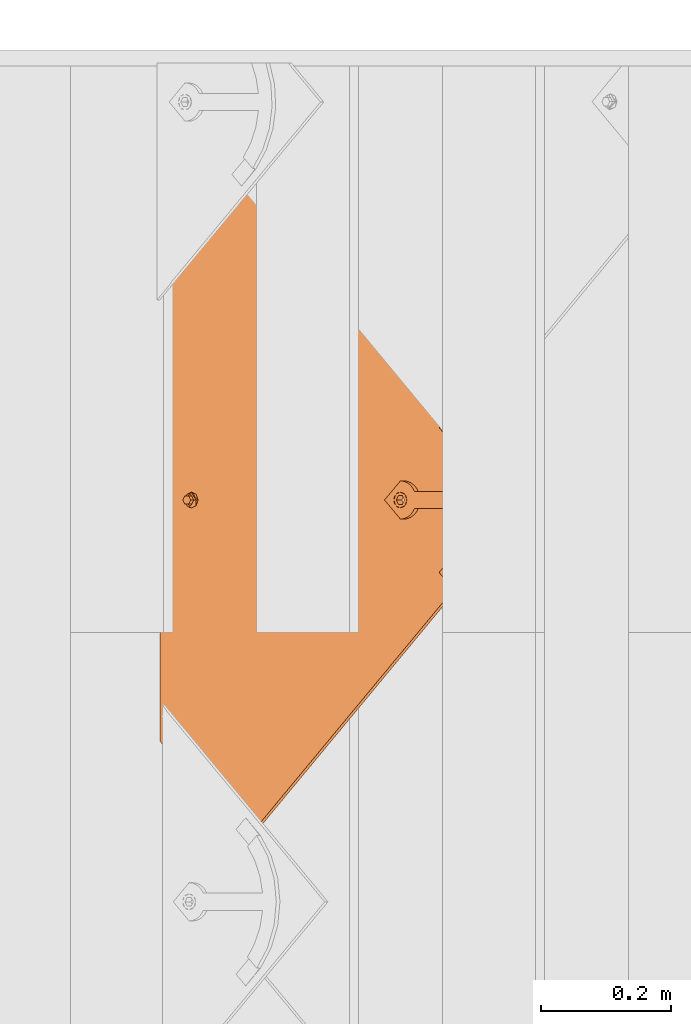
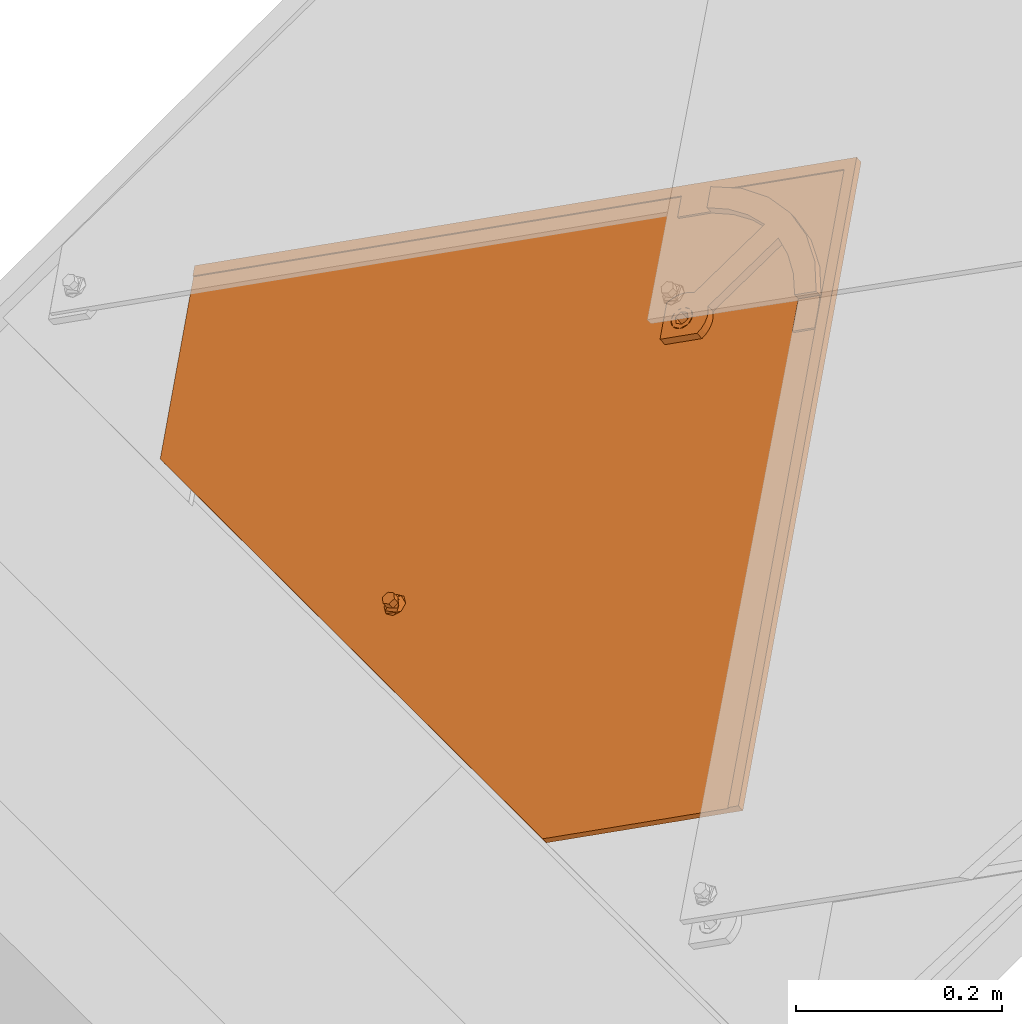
# One storey, part 89 of 151: 1 proxy.
"""IFC2X3 building model written with IfcOpenShell, lengths in millimetres."""

from ifc_helpers import new_model, entity, si_unit, converted_unit, derived_unit, direction, frame, origin, place, context, subcontext, project, spatial, faceted_brep, source, transform, mapped, material, material_list, type_object, type_shapes, element, save


model = new_model("IFC2X3")

# Units and contexts
model_context = context("Model", 3, precision=0.01, world=origin(), true_north=direction((6.12303176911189e-17, 1.0)))
body_context = subcontext(model_context, "Body", "Model", "MODEL_VIEW")
ifc_project = project(units=[si_unit("LENGTHUNIT", "METRE", prefix="MILLI"), si_unit("AREAUNIT", "SQUARE_METRE"), si_unit("VOLUMEUNIT", "CUBIC_METRE"), converted_unit("PLANEANGLEUNIT", "DEGREE", entity("IfcRatioMeasure", 0.0174532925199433), si_unit("PLANEANGLEUNIT", "RADIAN"), dimensions=[0, 0, 0, 0, 0, 0, 0]), si_unit("MASSUNIT", "GRAM", prefix="KILO"), derived_unit("MASSDENSITYUNIT", [(si_unit("MASSUNIT", "GRAM", prefix="KILO"), 1), (si_unit("LENGTHUNIT", "METRE"), -3)]), si_unit("TIMEUNIT", "SECOND"), si_unit("FREQUENCYUNIT", "HERTZ"), si_unit("THERMODYNAMICTEMPERATUREUNIT", "DEGREE_CELSIUS"), derived_unit("THERMALTRANSMITTANCEUNIT", [(si_unit("MASSUNIT", "GRAM", prefix="KILO"), 1), (si_unit("THERMODYNAMICTEMPERATUREUNIT", "KELVIN"), -1), (si_unit("TIMEUNIT", "SECOND"), -3)]), derived_unit("VOLUMETRICFLOWRATEUNIT", [(si_unit("LENGTHUNIT", "METRE"), 3), (si_unit("TIMEUNIT", "SECOND"), -1)]), si_unit("ELECTRICCURRENTUNIT", "AMPERE"), si_unit("ELECTRICVOLTAGEUNIT", "VOLT"), si_unit("POWERUNIT", "WATT"), si_unit("FORCEUNIT", "NEWTON", prefix="KILO"), si_unit("ILLUMINANCEUNIT", "LUX"), si_unit("LUMINOUSFLUXUNIT", "LUMEN"), si_unit("LUMINOUSINTENSITYUNIT", "CANDELA"), derived_unit("USERDEFINED", [(si_unit("MASSUNIT", "GRAM", prefix="KILO"), -1), (si_unit("LENGTHUNIT", "METRE"), -2), (si_unit("TIMEUNIT", "SECOND"), 3), (si_unit("LUMINOUSFLUXUNIT", "LUMEN"), 1)]), derived_unit("LINEARVELOCITYUNIT", [(si_unit("LENGTHUNIT", "METRE"), 1), (si_unit("TIMEUNIT", "SECOND"), -1)]), si_unit("PRESSUREUNIT", "PASCAL"), derived_unit("USERDEFINED", [(si_unit("LENGTHUNIT", "METRE"), -2), (si_unit("MASSUNIT", "GRAM", prefix="KILO"), 1), (si_unit("TIMEUNIT", "SECOND"), -2)])], contexts=[model_context])

# Site, building, storey
site_placement = place(None, origin())
site = spatial("IfcSite", under=ifc_project, at=site_placement, Name="Default", CompositionType="ELEMENT")
building_placement = place(site_placement, origin())
building = spatial("IfcBuilding", under=site, at=building_placement, CompositionType="ELEMENT")
storey_placement = place(building_placement, origin())
storey = spatial("IfcBuildingStorey", under=building, at=storey_placement, Name="Level 1", CompositionType="ELEMENT", Elevation=0.0)

# Proxy
ifc_material_1 = material(Name="Rubber - Sunstyle - Black")
ifc_material_2 = material(Name="Glass - Sunstyle - Tainted Black")
ifc_material_list_1 = material_list([ifc_material_1, ifc_material_2])
ifc_material_list_2 = material_list([ifc_material_1, ifc_material_2])
building_element_proxy_type = type_object("IfcBuildingElementProxyType", Name="Shingle Bottom - Black", PredefinedType="NOTDEFINED", material=ifc_material_list_2)
shared_shape = source(origin(), body_context, "Body", "Brep", [
    faceted_brep([(0.0, -1.79273515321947, -4.01619789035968), (-5.7742028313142, -5.12600528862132, -3.96037390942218), (-5.77420283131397, -4.75769619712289, 18.0314954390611), (0.0, -1.42442606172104, 17.9756714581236), (-5.77420283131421, -11.792545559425, -3.84872594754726), (-5.77420283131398, -11.4242364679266, 18.143143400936), (0.0, -15.1258156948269, -3.79290196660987), (0.0, -14.7575066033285, 18.1989673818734), (5.77420283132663, -11.7925455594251, -3.84872594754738), (5.77420283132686, -11.4242364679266, 18.1431434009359), (5.77420283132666, -5.12600528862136, -3.96037390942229), (5.77420283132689, -4.75769619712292, 18.031495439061), (-8.60370416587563, -16.6934641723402, 18.2313898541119), (0.0, -20.2567354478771, 18.2910657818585), (-12.1674751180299, -8.09096633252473, 18.0873194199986), (-8.60370416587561, 0.511531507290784, 17.9432489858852), (0.0, 4.07480278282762, 17.8835730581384), (8.60370416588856, 0.511531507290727, 17.9432489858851), (12.1674751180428, -8.09096633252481, 18.0873194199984), (8.60370416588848, -16.6934641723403, 18.2313898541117), (-11.4302228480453, -6.71737066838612, 20.4858706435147), (-9.77051349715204, -8.02009729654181, 22.3189355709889), (0.0, -0.706876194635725, 22.9603444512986), (0.0, 0.533621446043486, 22.3799978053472), (0.0, 2.69117229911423, 21.3706227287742), (-6.32324569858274, -4.35709193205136, 23.021476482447), (-6.32324569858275, -11.6575234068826, 23.1437405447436), (0.0, -18.7571148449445, 21.7298281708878), (0.0, -15.3077391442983, 23.2048725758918), (10.9851748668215, -11.808022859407, 20.3827540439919), (10.123850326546, -8.02413622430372, 22.0777687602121), (6.32324569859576, -4.3570919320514, 23.0214764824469), (6.32324569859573, -11.6575234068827, 23.1437405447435), (-6.32324569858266, -11.5234949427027, 31.146628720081), (0.0, -15.1737106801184, 31.2077607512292), (0.0, -7.8732792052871, 31.0854966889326), (-6.32324569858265, -4.22306346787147, 31.0243646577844), (6.32324569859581, -11.5234949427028, 31.1466287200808), (6.32324569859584, -4.22306346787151, 31.0243646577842), (0.0, -0.57284773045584, 30.963232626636), (0.0, -8.45927542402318, -3.90454992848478)], [[[0, 1, 2, 3]], [[1, 4, 5, 2]], [[4, 6, 7, 5]], [[6, 8, 9, 7]], [[8, 10, 11, 9]], [[10, 0, 3, 11]], [[12, 7, 13]], [[7, 12, 5]], [[14, 5, 12]], [[5, 14, 2]], [[15, 2, 14]], [[3, 2, 15]], [[15, 16, 3]], [[16, 17, 3]], [[11, 3, 17]], [[11, 17, 18]], [[9, 11, 18]], [[18, 19, 9]], [[7, 9, 19]], [[19, 13, 7]], [[15, 20, 16]], [[21, 22, 23, 24]], [[22, 21, 25]], [[20, 14, 12]], [[15, 14, 20]], [[25, 21, 26]], [[20, 24, 16]], [[12, 13, 27]], [[12, 27, 20]], [[21, 28, 26]], [[21, 27, 28]], [[20, 21, 24]], [[20, 27, 21]], [[19, 29, 13]], [[30, 23, 31]], [[30, 28, 27]], [[24, 23, 30]], [[29, 27, 13]], [[19, 18, 29]], [[29, 30, 27]], [[29, 17, 24]], [[24, 17, 16]], [[31, 32, 30]], [[23, 22, 31]], [[28, 30, 32]], [[29, 24, 30]], [[29, 18, 17]], [[33, 34, 35]], [[35, 36, 33]], [[34, 37, 35]], [[38, 35, 37]], [[35, 38, 39]], [[35, 39, 36]], [[40, 6, 4]], [[4, 1, 40]], [[1, 0, 40]], [[40, 8, 6]], [[0, 10, 40]], [[8, 40, 10]], [[22, 25, 36, 39]], [[25, 26, 33, 36]], [[26, 28, 34, 33]], [[28, 32, 37, 34]], [[32, 31, 38, 37]], [[31, 22, 39, 38]]]),
    faceted_brep([(0.0, 372.824876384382, 20.3195200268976), (0.0, 377.324245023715, 20.2441667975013), (-8.60370416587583, 376.388147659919, 20.2598440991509), (8.60370416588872, 376.388147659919, 20.2598440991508), (6.64022859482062, 381.157445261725, 20.1799702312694), (12.1674751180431, 384.990645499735, 20.1157736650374), (6.64022859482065, 388.823845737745, 20.0515770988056), (8.6037041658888, 393.59314333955, 19.9717032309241), (0.0, 392.657045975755, 19.9873805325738), (0.0, 397.156414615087, 19.9120273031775), (-8.60370416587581, 393.59314333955, 19.9717032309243), (-6.64022859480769, 388.823845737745, 20.0515770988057), (-12.1674751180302, 384.990645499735, 20.1157736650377), (-6.6402285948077, 381.157445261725, 20.1799702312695), (-6.6402282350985, 388.555922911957, 4.05382046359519), (0.0, 392.389122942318, 3.98962390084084), (-6.64022823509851, 380.889522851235, 4.18221358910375), (0.0, 377.056322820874, 4.24641015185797), (6.64022823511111, 380.889522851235, 4.18221358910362), (6.64022823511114, 388.555922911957, 4.05382046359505), (-8.603704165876, 376.12022504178, 4.26208746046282), (0.0, 372.556953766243, 4.32176338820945), (-12.1674751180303, 384.722722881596, 4.11801702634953), (-8.60370416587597, 393.325220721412, 3.97394659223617), (0.0, 396.888491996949, 3.91427066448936), (8.60370416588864, 393.325220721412, 3.97394659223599), (12.1674751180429, 384.722722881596, 4.11801702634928), (8.60370416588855, 376.12022504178, 4.26208746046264)], [[[0, 1, 2]], [[1, 0, 3]], [[3, 4, 1]], [[4, 3, 5]], [[6, 4, 5]], [[5, 7, 6]], [[7, 8, 6]], [[8, 7, 9]], [[8, 9, 10]], [[10, 11, 8]], [[12, 11, 10]], [[2, 13, 12]], [[12, 13, 11]], [[13, 2, 1]], [[8, 11, 14, 15]], [[11, 13, 16, 14]], [[13, 1, 17, 16]], [[1, 4, 18, 17]], [[4, 6, 19, 18]], [[6, 8, 15, 19]], [[20, 17, 21]], [[17, 20, 16]], [[22, 16, 20]], [[14, 16, 22]], [[23, 14, 22]], [[15, 14, 23]], [[23, 24, 15]], [[24, 25, 15]], [[19, 15, 25]], [[19, 25, 26]], [[26, 18, 19]], [[26, 27, 18]], [[17, 18, 27]], [[27, 21, 17]], [[24, 23, 10, 9]], [[10, 23, 22, 12]], [[20, 21, 0, 2]], [[20, 2, 12, 22]], [[21, 27, 3, 0]], [[3, 27, 26, 5]], [[25, 24, 9, 7]], [[25, 7, 5, 26]]]),
    faceted_brep([(518.247351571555, 79.9143812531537, 14.965257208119), (526.732038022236, 88.3990677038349, 14.8231598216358), (526.732038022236, 88.4241854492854, 16.3229495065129), (518.247351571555, 79.9394989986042, 16.4650468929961), (0.000322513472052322, 598.016093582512, 6.28834266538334), (-518.246706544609, 79.9143812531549, 14.9652572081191), (-526.73139299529, 88.3990677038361, 14.8231598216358), (0.000322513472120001, 614.983087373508, 6.00418773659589), (0.000322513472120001, 615.008205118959, 7.50397742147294), (-526.731392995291, 88.4241854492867, 16.3229495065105), (-518.246706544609, 79.9394989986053, 16.465046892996), (0.000322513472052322, 598.041211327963, 7.78813235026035)], [[[0, 1, 2, 3]], [[1, 0, 4, 5, 6, 7]], [[2, 1, 7, 8]], [[3, 2, 8, 9, 10, 11]], [[0, 3, 11, 4]], [[5, 10, 9, 6]], [[8, 7, 6, 9]], [[4, 11, 10, 5]]]),
    faceted_brep([(0.00032251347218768, 614.983087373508, 6.00418773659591), (-2.87802047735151, 396.187349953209, 9.66847193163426), (0.227808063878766, 396.596182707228, 9.6616250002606), (-5.77219193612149, 394.988712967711, 9.68854611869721), (3.3336366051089, 396.187349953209, 9.66847193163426), (6.22780806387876, 394.988712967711, 9.6885461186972), (8.71308943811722, 393.081956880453, 9.72047953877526), (10.620112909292, 390.59702396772, 9.76209598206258), (-8.25747331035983, 393.081956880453, 9.72047953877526), (-10.1644967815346, 390.59702396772, 9.76209598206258), (-11.3633018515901, 387.703258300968, 9.81055935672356), (-526.731392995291, 88.3990677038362, 14.8231598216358), (11.8189179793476, 387.703258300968, 9.81055935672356), (526.732038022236, 88.3990677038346, 14.8231598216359), (-11.7721919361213, 384.597865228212, 9.86256696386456), (-11.3633018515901, 381.492472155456, 9.91457457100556), (-10.1644967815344, 378.598706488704, 9.96303794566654), (-370.355016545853, -67.9334607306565, 17.4413406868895), (-8.25747331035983, 376.113773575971, 10.0046543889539), (-5.65685424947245, -2.29422365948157, 16.3420467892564), (-6.92820323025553, -3.95084560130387, 16.3697910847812), (-7.72740661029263, -5.88002271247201, 16.4021000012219), (-8.0, -7.95028476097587, 16.4367717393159), (-7.72740661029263, -10.0205468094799, 16.4714434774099), (-6.9282032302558, -11.9497239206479, 16.5037523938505), (-5.65685424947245, -13.6063458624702, 16.5314966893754), (-4.0, -14.8775165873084, 16.5527856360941), (-2.07055236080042, -15.676607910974, 16.5661684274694), (0.0, -15.9491630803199, 16.5707330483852), (370.355661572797, -67.9334607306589, 17.4413406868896), (10.620112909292, 378.598706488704, 9.96303794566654), (8.71308943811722, 376.11377357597, 10.0046543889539), (5.65685424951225, -2.29422365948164, 16.3420467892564), (6.92820323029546, -3.9508456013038, 16.3697910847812), (7.72740661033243, -5.88002271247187, 16.4021000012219), (8.0, -7.9502847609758, 16.4367717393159), (7.72740661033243, -10.0205468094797, 16.4714434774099), (6.92820323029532, -11.9497239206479, 16.5037523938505), (5.65685424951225, -13.6063458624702, 16.5314966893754), (4.0, -14.8775165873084, 16.5527856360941), (2.07055236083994, -15.676607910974, 16.5661684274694), (-5.77219193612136, 374.207017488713, 10.0365878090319), (-4.0, -1.02305293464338, 16.3207578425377), (-2.87802047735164, 373.008380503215, 10.0566619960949), (-2.07055236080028, -0.223961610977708, 16.3073750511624), (0.227808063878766, 372.599547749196, 10.0635089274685), (0.0, 0.0485935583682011, 16.3028104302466), (2.07055236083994, -0.223961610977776, 16.3073750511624), (3.3336366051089, 373.008380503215, 10.0566619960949), (4.0, -1.02305293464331, 16.3207578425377), (6.22780806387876, 374.207017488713, 10.0365878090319), (12.2278080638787, 384.597865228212, 9.86256696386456), (11.8189179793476, 381.492472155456, 9.91457457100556), (-370.355016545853, -68.059049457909, 9.94239226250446), (-6.92820323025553, -4.07643432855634, 8.87084266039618), (-7.72740661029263, -6.00561143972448, 8.90315157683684), (-8.0, -8.07587348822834, 8.93782331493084), (-7.72740661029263, -10.1461355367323, 8.97249505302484), (-6.9282032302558, -12.0753126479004, 9.00480396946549), (-5.65685424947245, -13.7319345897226, 9.03254826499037), (-5.65685424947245, -2.41981238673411, 8.8430983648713), (-8.25747331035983, 375.988184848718, 2.50570596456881), (-4.0, -15.0031053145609, 9.05383721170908), (-2.07055236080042, -15.8021966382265, 9.06722000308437), (0.0, -16.0747518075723, 9.07178462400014), (370.355661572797, -68.0590494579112, 9.9423922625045), (-10.1644967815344, 378.473117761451, 2.46408952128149), (-526.731392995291, 88.2734789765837, 7.32421139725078), (-11.3633018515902, 381.366883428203, 2.41562614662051), (-11.7721919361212, 384.472276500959, 2.36361853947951), (-11.3633018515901, 387.577669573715, 2.3116109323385), (0.00032251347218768, 614.857498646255, -1.49476068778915), (-10.1644967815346, 390.471435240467, 2.26314755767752), (-8.25747331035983, 392.956368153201, 2.22153111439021), (-5.77219193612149, 394.863124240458, 2.18959769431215), (-2.87802047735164, 396.061761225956, 2.16952350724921), (0.227808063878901, 396.470593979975, 2.16267657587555), (3.3336366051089, 396.061761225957, 2.1695235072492), (6.22780806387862, 394.863124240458, 2.18959769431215), (8.71308943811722, 392.956368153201, 2.2215311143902), (10.620112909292, 390.471435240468, 2.26314755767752), (11.8189179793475, 387.577669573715, 2.31161093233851), (526.732038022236, 88.2734789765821, 7.32421139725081), (12.2278080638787, 384.472276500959, 2.3636185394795), (10.620112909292, 378.473117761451, 2.46408952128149), (11.8189179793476, 381.366883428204, 2.41562614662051), (-5.77219193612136, 374.08142876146, 2.53763938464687), (-4.0, -1.14864166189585, 8.8218094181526), (-2.87802047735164, 372.882791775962, 2.55771357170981), (-2.07055236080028, -0.349550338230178, 8.8084266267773), (0.227808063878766, 372.473959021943, 2.56456050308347), (0.0, -0.0769951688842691, 8.80386200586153), (2.07055236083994, -0.349550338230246, 8.8084266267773), (3.3336366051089, 372.882791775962, 2.55771357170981), (4.0, -1.14864166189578, 8.8218094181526), (6.22780806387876, 374.081428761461, 2.53763938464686), (5.65685424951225, -2.41981238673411, 8.8430983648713), (8.71308943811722, 375.988184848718, 2.50570596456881), (6.92820323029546, -4.07643432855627, 8.87084266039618), (7.72740661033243, -6.00561143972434, 8.90315157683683), (8.0, -8.07587348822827, 8.93782331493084), (7.72740661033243, -10.1461355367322, 8.97249505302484), (6.92820323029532, -12.0753126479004, 9.00480396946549), (5.65685424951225, -13.7319345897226, 9.03254826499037), (4.0, -15.0031053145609, 9.05383721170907), (2.07055236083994, -15.8021966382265, 9.06722000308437)], [[[0, 1, 2]], [[1, 0, 3]], [[0, 2, 4]], [[4, 5, 0]], [[5, 6, 0]], [[0, 6, 7]], [[8, 3, 0]], [[9, 8, 0]], [[9, 0, 10]], [[10, 0, 11]], [[12, 0, 7]], [[12, 13, 0]], [[11, 14, 10]], [[14, 11, 15]], [[16, 15, 11]], [[11, 17, 16]], [[16, 17, 18]], [[19, 18, 17]], [[19, 17, 20]], [[20, 17, 21]], [[22, 21, 17]], [[22, 17, 23]], [[24, 23, 17]], [[17, 25, 24]], [[26, 25, 17]], [[27, 26, 17]], [[17, 28, 27]], [[28, 17, 29]], [[29, 13, 30]], [[29, 30, 31]], [[29, 31, 32]], [[32, 33, 29]], [[33, 34, 29]], [[35, 29, 34]], [[29, 35, 36]], [[36, 37, 29]], [[29, 37, 38]], [[38, 39, 29]], [[40, 28, 29]], [[39, 40, 29]], [[41, 18, 19]], [[42, 41, 19]], [[42, 43, 41]], [[44, 43, 42]], [[44, 45, 43]], [[46, 45, 44]], [[47, 45, 46]], [[48, 45, 47]], [[49, 48, 47]], [[49, 50, 48]], [[32, 50, 49]], [[32, 31, 50]], [[12, 51, 13]], [[52, 13, 51]], [[13, 52, 30]], [[53, 54, 55]], [[53, 55, 56]], [[56, 57, 53]], [[57, 58, 53]], [[53, 58, 59]], [[60, 54, 53]], [[61, 60, 53]], [[59, 62, 53]], [[62, 63, 53]], [[63, 64, 53]], [[53, 64, 65]], [[66, 61, 53]], [[66, 53, 67]], [[68, 66, 67]], [[69, 68, 67]], [[69, 67, 70]], [[67, 71, 70]], [[72, 70, 71]], [[73, 72, 71]], [[71, 74, 73]], [[74, 71, 75]], [[75, 71, 76]], [[77, 76, 71]], [[77, 71, 78]], [[79, 78, 71]], [[71, 80, 79]], [[80, 71, 81]], [[71, 82, 81]], [[83, 81, 82]], [[84, 82, 65]], [[85, 82, 84]], [[82, 85, 83]], [[86, 60, 61]], [[86, 87, 60]], [[88, 87, 86]], [[89, 87, 88]], [[90, 89, 88]], [[90, 91, 89]], [[92, 91, 90]], [[92, 90, 93]], [[94, 92, 93]], [[93, 95, 94]], [[94, 95, 96]], [[97, 96, 95]], [[96, 97, 65]], [[84, 65, 97]], [[98, 96, 65]], [[99, 98, 65]], [[99, 65, 100]], [[101, 100, 65]], [[102, 101, 65]], [[103, 102, 65]], [[104, 103, 65]], [[105, 104, 65]], [[65, 64, 105]], [[11, 0, 71, 67]], [[17, 11, 67, 53]], [[13, 29, 65, 82]], [[0, 13, 82, 71]], [[22, 56, 55, 21]], [[21, 55, 54, 20]], [[42, 19, 60, 87]], [[60, 19, 20, 54]], [[44, 42, 87, 89]], [[44, 89, 91, 46]], [[46, 91, 92, 47]], [[47, 92, 94, 49]], [[33, 32, 96, 98]], [[96, 32, 49, 94]], [[34, 33, 98, 99]], [[34, 99, 100, 35]], [[35, 100, 101, 36]], [[36, 101, 102, 37]], [[39, 38, 103, 104]], [[103, 38, 37, 102]], [[40, 39, 104, 105]], [[40, 105, 64, 28]], [[28, 64, 63, 27]], [[27, 63, 62, 26]], [[24, 25, 59, 58]], [[59, 25, 26, 62]], [[23, 24, 58, 57]], [[23, 57, 56, 22]], [[14, 69, 70, 10]], [[10, 70, 72, 9]], [[3, 8, 73, 74]], [[73, 8, 9, 72]], [[1, 3, 74, 75]], [[1, 75, 76, 2]], [[2, 76, 77, 4]], [[4, 77, 78, 5]], [[7, 6, 79, 80]], [[79, 6, 5, 78]], [[12, 7, 80, 81]], [[12, 81, 83, 51]], [[51, 83, 85, 52]], [[52, 85, 84, 30]], [[50, 31, 97, 95]], [[97, 31, 30, 84]], [[48, 50, 95, 93]], [[48, 93, 90, 45]], [[45, 90, 88, 43]], [[43, 88, 86, 41]], [[16, 18, 61, 66]], [[41, 86, 61, 18]], [[68, 15, 16, 66]], [[15, 68, 69, 14]], [[29, 17, 53, 65]]]),
    faceted_brep([(-111.269043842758, 451.472531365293, 11.2429332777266), (-84.9443960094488, 477.793488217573, 10.8021227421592), (-102.027571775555, 494.874268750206, 10.5160621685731), (-108.279973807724, 489.512620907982, 10.6058564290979), (-114.2509690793, 483.839345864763, 10.7008696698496), (-128.946713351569, 469.147722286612, 10.9469178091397), (128.946713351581, 469.147722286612, 10.9469178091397), (114.250969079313, 483.839345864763, 10.7008696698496), (108.279973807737, 489.512620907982, 10.6058564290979), (102.027571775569, 494.874268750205, 10.5160621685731), (84.9431983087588, 477.794685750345, 10.802102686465), (111.269043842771, 451.472531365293, 11.2429332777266), (-8.48528137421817, 393.302959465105, 19.7181805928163), (-18.7041061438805, 407.484939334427, 19.4806677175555), (-23.2046504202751, 402.851933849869, 19.5582590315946), (-10.3923048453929, 390.818026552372, 19.7597970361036), (-6.0, 395.209715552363, 19.6862471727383), (-13.2999999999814, 411.02298750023, 19.4214142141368), (-3.10582854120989, 396.408352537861, 19.6661729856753), (0.0, 396.81718529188, 19.6593260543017), (13.3000000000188, 411.022987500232, 19.4214142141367), (3.10582854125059, 396.408352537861, 19.6661729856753), (6.0, 395.209715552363, 19.6862471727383), (18.7041061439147, 407.484939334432, 19.4806677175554), (8.48528137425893, 393.302959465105, 19.7181805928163), (23.2046504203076, 402.85193384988, 19.5582590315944), (10.3923048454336, 390.818026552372, 19.7597970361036), (26.5842195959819, 397.347783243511, 19.6504398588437), (11.5911099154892, 387.92426088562, 19.8082604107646), (28.6795527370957, 391.238383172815, 19.752757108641), (12.0, 384.818867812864, 19.8602680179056), (29.3894280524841, 384.818867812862, 19.8602680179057), (11.5911099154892, 381.713474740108, 19.9122756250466), (10.3923048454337, 378.819709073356, 19.9607389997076), (8.48528137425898, 376.334776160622, 20.0023554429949), (0.0, 355.433560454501, 20.3523987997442), (6.0, 374.428020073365, 20.034288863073), (3.10582854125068, 373.229383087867, 20.0543630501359), (0.0, 372.820550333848, 20.0612099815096), (-3.10582854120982, 373.229383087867, 20.0543630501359), (-6.0, 374.428020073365, 20.034288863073), (-8.48528137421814, 376.334776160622, 20.0023554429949), (-29.3894280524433, 384.818867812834, 19.8602680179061), (-10.3923048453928, 378.819709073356, 19.9607389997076), (-11.5911099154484, 381.713474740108, 19.9122756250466), (-12.0, 384.818867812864, 19.8602680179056), (-28.67955273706, 391.238383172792, 19.7527571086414), (-11.5911099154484, 387.92426088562, 19.8082604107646), (-26.5842195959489, 397.347783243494, 19.650439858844), (-13.2999999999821, 505.810987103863, 17.833951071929), (13.3000000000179, 505.810987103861, 17.833951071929), (0.0, 531.282600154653, 17.4073649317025), (36.4908407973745, 527.108634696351, 17.4772684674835), (38.7697427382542, 500.996106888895, 17.9145883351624), (71.096085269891, 514.802420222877, 17.6833669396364), (62.9243331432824, 491.592473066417, 18.0720758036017), (102.027571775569, 494.999857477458, 18.0150105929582), (84.9443960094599, 477.919076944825, 18.3010711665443), (-36.4908407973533, 527.108634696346, 17.4772684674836), (-38.7697427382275, 500.996106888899, 17.9145883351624), (-71.0960852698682, 514.802420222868, 17.6833669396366), (-62.9243331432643, 491.592473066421, 18.0720758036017), (-102.027571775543, 494.999857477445, 18.0150105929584), (-84.9443960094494, 477.919076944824, 18.3010711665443), (0.0, 355.266108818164, 10.3538009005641), (0.0, 372.653098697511, 10.0626120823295), (3.10582854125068, 373.06193145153, 10.0557651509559), (-3.10582854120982, 373.06193145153, 10.0557651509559), (6.0, 374.260568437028, 10.0356909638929), (8.48528137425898, 376.167324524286, 10.0037575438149), (29.3894280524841, 384.651416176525, 9.86167011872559), (-6.0, 374.260568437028, 10.0356909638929), (-8.48528137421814, 376.167324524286, 10.0037575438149), (-29.3894280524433, 384.651416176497, 9.86167011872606), (-10.3923048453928, 378.652257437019, 9.96214110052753), (-11.5911099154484, 381.546023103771, 9.91367772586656), (-12.0, 384.651416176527, 9.86167011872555), (-28.67955273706, 391.070931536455, 9.75415920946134), (-11.5911099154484, 387.756809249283, 9.80966251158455), (-26.5842195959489, 397.180331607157, 9.65184195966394), (-10.3923048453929, 390.650574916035, 9.76119913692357), (-23.2046504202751, 402.684482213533, 9.5596611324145), (-8.48528137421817, 393.135507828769, 9.71958269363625), (-18.7041061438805, 407.31748769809, 9.48206981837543), (-6.0, 395.042263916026, 9.6876492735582), (-13.2999999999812, 410.855535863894, 9.4228163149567), (-3.10582854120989, 396.240900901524, 9.66757508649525), (0.0, 396.649733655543, 9.66072815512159), (13.3000000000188, 410.855535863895, 9.42281631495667), (-13.2999999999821, 505.643535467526, 7.83535317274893), (13.3000000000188, 505.643535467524, 7.83535317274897), (0.0, 531.115148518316, 7.4087670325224), (-36.4908407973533, 526.94118306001, 7.47867056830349), (-38.7697427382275, 500.828655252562, 7.91599043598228), (-71.0960852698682, 514.634968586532, 7.68476904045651), (-62.9243331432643, 491.425021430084, 8.07347790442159), (-102.027571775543, 494.832405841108, 8.01641269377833), (-84.9431983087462, 477.752822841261, 8.30245321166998), (-108.279973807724, 489.470757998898, 8.10620695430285), (-114.2509690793, 483.79748295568, 8.2012201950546), (-111.269043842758, 451.430668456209, 8.74328380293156), (-128.946713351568, 469.105859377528, 8.44726833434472), (36.4908407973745, 526.941183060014, 7.47867056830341), (38.7697427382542, 500.828655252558, 7.91599043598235), (71.096085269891, 514.634968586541, 7.68476904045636), (62.9243331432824, 491.425021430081, 8.07347790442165), (102.027571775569, 494.832405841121, 8.01641269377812), (84.9443960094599, 477.751625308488, 8.30247326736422), (108.279973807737, 489.470757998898, 8.10620695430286), (114.250969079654, 483.797482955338, 8.20122019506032), (111.269043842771, 451.430668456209, 8.74328380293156), (128.946713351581, 469.105859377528, 8.44726833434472), (3.10582854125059, 396.240900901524, 9.66757508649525), (6.0, 395.042263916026, 9.6876492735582), (18.7041061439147, 407.317487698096, 9.48206981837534), (8.48528137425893, 393.135507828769, 9.71958269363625), (23.2046504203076, 402.684482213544, 9.55966113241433), (10.3923048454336, 390.650574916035, 9.76119913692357), (26.5842195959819, 397.180331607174, 9.65184195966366), (11.5911099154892, 387.756809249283, 9.80966251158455), (28.6795527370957, 391.070931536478, 9.75415920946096), (12.0, 384.651416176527, 9.86167011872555), (11.5911099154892, 381.546023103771, 9.91367772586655), (10.3923048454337, 378.652257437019, 9.96214110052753)], [[[0, 1, 2, 3, 4, 5]], [[6, 7, 8, 9, 10, 11]], [[12, 13, 14]], [[15, 12, 14]], [[16, 13, 12]], [[13, 16, 17]], [[17, 16, 18]], [[18, 19, 17]], [[20, 17, 19]], [[19, 21, 20]], [[22, 20, 21]], [[22, 23, 20]], [[22, 24, 23]], [[25, 23, 24]], [[26, 25, 24]], [[25, 26, 27]], [[26, 28, 27]], [[29, 27, 28]], [[28, 30, 29]], [[31, 29, 30]], [[30, 32, 31]], [[32, 33, 31]], [[31, 33, 34]], [[34, 35, 31]], [[34, 36, 35]], [[37, 35, 36]], [[38, 35, 37]], [[35, 38, 39]], [[40, 35, 39]], [[40, 41, 35]], [[42, 35, 41]], [[43, 42, 41]], [[43, 44, 42]], [[44, 45, 42]], [[45, 46, 42]], [[46, 45, 47]], [[48, 46, 47]], [[47, 15, 48]], [[48, 15, 14]], [[20, 49, 17]], [[49, 20, 50]], [[51, 49, 50]], [[50, 52, 51]], [[53, 52, 50]], [[52, 53, 54]], [[55, 54, 53]], [[54, 55, 56]], [[55, 57, 56]], [[58, 49, 51]], [[49, 58, 59]], [[60, 59, 58]], [[60, 61, 59]], [[61, 60, 62]], [[61, 62, 63]], [[64, 65, 66]], [[65, 64, 67]], [[64, 66, 68]], [[68, 69, 64]], [[64, 69, 70]], [[71, 67, 64]], [[71, 64, 72]], [[72, 64, 73]], [[73, 74, 72]], [[74, 73, 75]], [[76, 75, 73]], [[77, 76, 73]], [[76, 77, 78]], [[78, 77, 79]], [[80, 78, 79]], [[81, 80, 79]], [[82, 80, 81]], [[81, 83, 82]], [[83, 84, 82]], [[84, 83, 85]], [[85, 86, 84]], [[87, 86, 85]], [[87, 85, 88]], [[88, 85, 89]], [[88, 89, 90]], [[89, 91, 90]], [[91, 89, 92]], [[93, 92, 89]], [[94, 92, 93]], [[93, 95, 94]], [[95, 96, 94]], [[97, 96, 95]], [[98, 96, 97]], [[99, 98, 97]], [[97, 100, 99]], [[101, 99, 100]], [[102, 90, 91]], [[90, 102, 103]], [[104, 103, 102]], [[103, 104, 105]], [[105, 104, 106]], [[107, 105, 106]], [[107, 106, 108]], [[109, 107, 108]], [[110, 107, 109]], [[111, 110, 109]], [[87, 88, 112]], [[113, 112, 88]], [[114, 113, 88]], [[115, 113, 114]], [[115, 114, 116]], [[116, 117, 115]], [[116, 118, 117]], [[117, 118, 119]], [[119, 118, 120]], [[121, 119, 120]], [[120, 70, 121]], [[122, 121, 70]], [[70, 69, 123]], [[123, 122, 70]], [[17, 49, 89, 85]], [[13, 17, 85, 83]], [[14, 13, 83, 81]], [[81, 79, 48, 14]], [[46, 48, 79, 77]], [[42, 46, 77, 73]], [[35, 42, 73, 64]], [[31, 35, 64, 70]], [[29, 31, 70, 120]], [[27, 29, 120, 118]], [[118, 116, 25, 27]], [[23, 25, 116, 114]], [[20, 23, 114, 88]], [[50, 20, 88, 90]], [[9, 106, 104, 54, 56]], [[52, 54, 104, 102]], [[51, 52, 102, 91]], [[58, 51, 91, 92]], [[94, 96, 2, 62, 60]], [[60, 58, 92, 94]], [[45, 76, 78, 47]], [[47, 78, 80, 15]], [[16, 12, 82, 84]], [[80, 82, 12, 15]], [[18, 16, 84, 86]], [[87, 19, 18, 86]], [[21, 112, 113, 22]], [[22, 113, 115, 24]], [[28, 26, 117, 119]], [[115, 117, 26, 24]], [[30, 28, 119, 121]], [[21, 19, 87, 112]], [[30, 121, 122, 32]], [[32, 122, 123, 33]], [[36, 34, 69, 68]], [[123, 69, 34, 33]], [[37, 36, 68, 66]], [[65, 38, 37, 66]], [[39, 67, 71, 40]], [[40, 71, 72, 41]], [[44, 43, 74, 75]], [[72, 74, 43, 41]], [[45, 44, 75, 76]], [[39, 38, 65, 67]], [[7, 6, 111, 109]], [[6, 11, 110, 111]], [[7, 109, 108, 8]], [[108, 106, 9, 8]], [[11, 10, 107, 110]], [[0, 5, 101, 100]], [[1, 0, 100, 97]], [[2, 96, 98, 3]], [[98, 99, 4, 3]], [[5, 4, 99, 101]], [[63, 62, 2, 1]], [[56, 57, 10]], [[10, 9, 56]], [[1, 95, 61, 63]], [[1, 97, 95]], [[93, 89, 49, 59]], [[95, 93, 59, 61]], [[90, 103, 53, 50]], [[103, 105, 55, 53]], [[10, 57, 55]], [[107, 10, 105]], [[55, 105, 10]]]),
])
type_shapes(building_element_proxy_type, [shared_shape])
proxy_placement = place(storey_placement, frame((-2260.31148799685, 3258.9577847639, 362.583093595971), z_axis=(-0.57357643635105, 0.0, 0.819152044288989), x_axis=(0.0, -1.0, 0.0)))
element("IfcBuildingElementProxy", 1, at=proxy_placement, inside=storey, type_object=building_element_proxy_type, material=ifc_material_list_1, Name="Roofing_Panels_SunStyle_Tile_Shingle-Bottom:Shingle Bottom - Black", ObjectType="Roofing_Panels_SunStyle_Tile_Shingle-Bottom:Shingle Bottom - Black", context=body_context, shape_type="MappedRepresentation", body=[
    mapped(shared_shape, transform((0.0, 0.0, 0.0), scale=1.0)),
])

save(model, "model.ifc")
